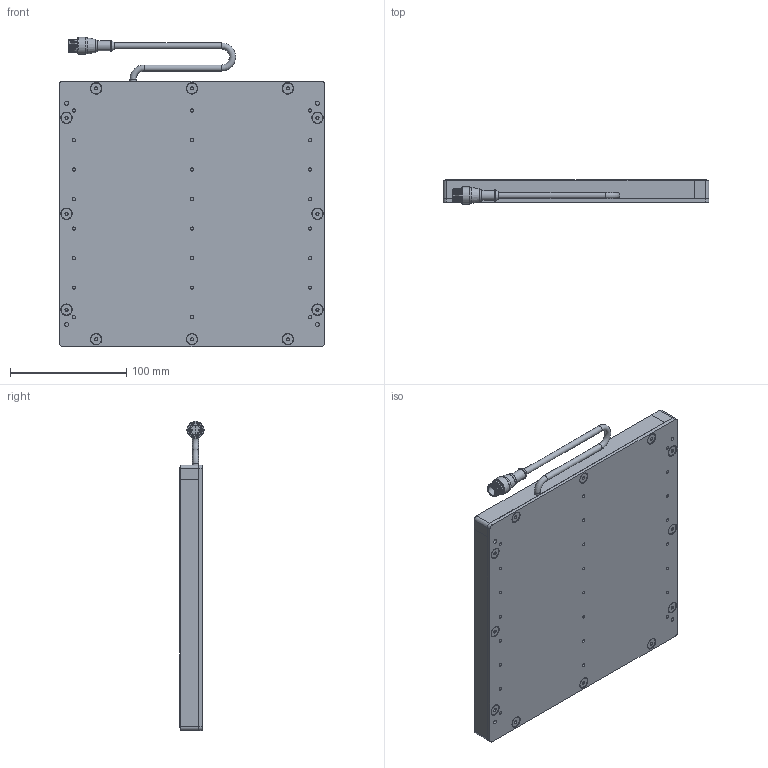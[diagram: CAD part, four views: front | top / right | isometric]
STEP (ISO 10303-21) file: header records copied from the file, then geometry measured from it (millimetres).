
FILE_DESCRIPTION (( 'STEP AP214' ), '1' );
FILE_NAME ('SBL88-XXX-WDC.STEP', '2026-04-17T19:28:14', ( '' ), ( '' ), 'SwSTEP 2.0', 'SolidWorks 2025', '' );
FILE_SCHEMA (( 'AUTOMOTIVE_DESIGN' ));
Length unit declared in the file: inch
Products named in the file (10): SBL88-XXX-WDC; WD-SBLYYXX_8x8; M12 Connector 4,5 and 8 pin_RS4.5T; Hex Standoff .375 x 8-32; SBL3 to 18in rail_08in No CG; BackPlate BLYYXX_0808; SBL3 to 18in rail_08in rail; 8-32 x 0.375 FHCS (92210A192)_92210A192; SC Pigtail Complete 18_5pin; MC Pigtail 24
Assembly tree (33 placements, depth 3):
  SBL88-XXX-WDC
    BackPlate BLYYXX_0808
    SBL3 to 18in rail_08in rail
    SBL3 to 18in rail_08in No CG  x3
    SC Pigtail Complete 18_5pin
      MC Pigtail 24
      M12 Connector 4,5 and 8 pin_RS4.5T
    WD-SBLYYXX_8x8
    Hex Standoff .375 x 8-32  x12
    8-32 x 0.375 FHCS (92210A192)_92210A192  x12
Bounding box: 228.6 x 20.74 x 266.13 mm (x, y, z)
Volume: 465156.1 mm3; surface area: 281093.9 mm2
Topology: 32 solids, 32 shells, 862 faces, 2008 edges, 1235 vertices
Faces by surface type: plane 345, cylinder 252, cone 199, bspline 36, torus 25, sphere 5
Full cylindrical faces by diameter (mm): 0.762 x5, 2.705 x24, 3.454 x16, 4.496 x24, 5.207 x3, 6.604 x8, 6.858 x12, 8.382 x1, 8.636 x1, 9.119 x12, 10.16 x1, 10.541 x1, 11.938 x1, 13.716 x2, 14.732 x1
Entity records: 12598 total; most frequent: CARTESIAN_POINT 3548, DIRECTION 1672, ORIENTED_EDGE 1300, AXIS2_PLACEMENT_3D 702, EDGE_CURVE 650, EDGE_LOOP 564, VERTEX_POINT 490, FACE_OUTER_BOUND 405
